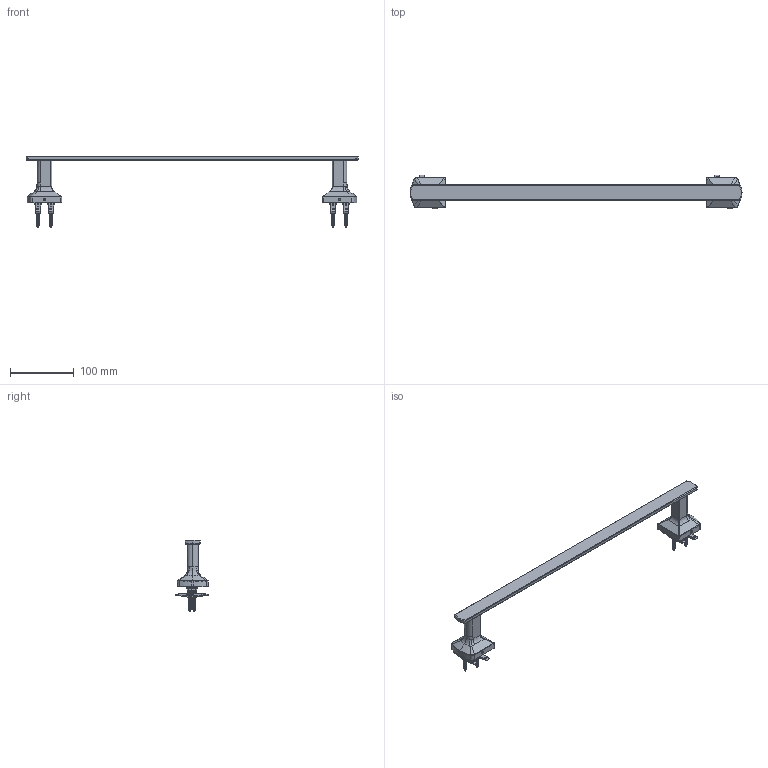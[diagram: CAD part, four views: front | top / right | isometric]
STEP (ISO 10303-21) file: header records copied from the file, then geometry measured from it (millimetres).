
FILE_DESCRIPTION (( 'STEP AP214' ), '1' );
FILE_NAME ('493TB.STEP', '2025-01-02T03:03:24', ( '' ), ( '' ), 'SwSTEP 2.0', 'SolidWorks 2023', '' );
FILE_SCHEMA (( 'AUTOMOTIVE_DESIGN' ));
Products named in the file (1): 493TB
Bounding box: 520.78 x 52.89 x 112.7 mm (x, y, z)
Surface area: 69500.4 mm2 (no closed solid volume)
Topology: 0 solids, 19 shells, 706 faces, 2292 edges, 1539 vertices
Faces by surface type: plane 248, cylinder 220, bspline 176, sphere 32, cone 26, torus 4
Entity records: 50382 total; most frequent: CARTESIAN_POINT 32579, ORIENTED_EDGE 3951, DIRECTION 2887, EDGE_CURVE 2292, VERTEX_POINT 1539, LINE 1055, VECTOR 1055, AXIS2_PLACEMENT_3D 916
